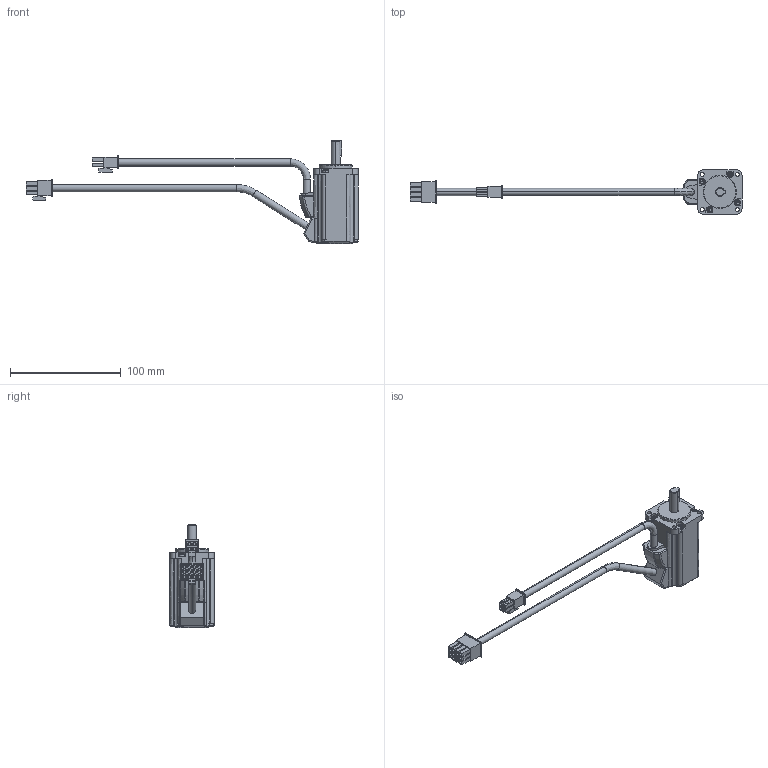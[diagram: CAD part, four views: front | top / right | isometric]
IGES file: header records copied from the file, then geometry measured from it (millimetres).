
Start section:  PTC IGES file: 10001002_rsmz-a5ba_no_brake.igs
Global section: file name: 10001002_rsmz-a5ba_no_brake.igs; native system: Pro/ENGINEER by Parametric Technology Corporation; preprocessor: 2004440; author: Administrator; organization: Unknown; date: 070829.201204; units: millimetre
Bounding box: 299.76 x 40 x 93 mm (x, y, z)
Volume: 125315.2 mm3; surface area: 30994.4 mm2
Topology: 1 solids, 1 shells, 492 faces, 1237 edges, 803 vertices
Faces by surface type: bspline 352, revolution 140
